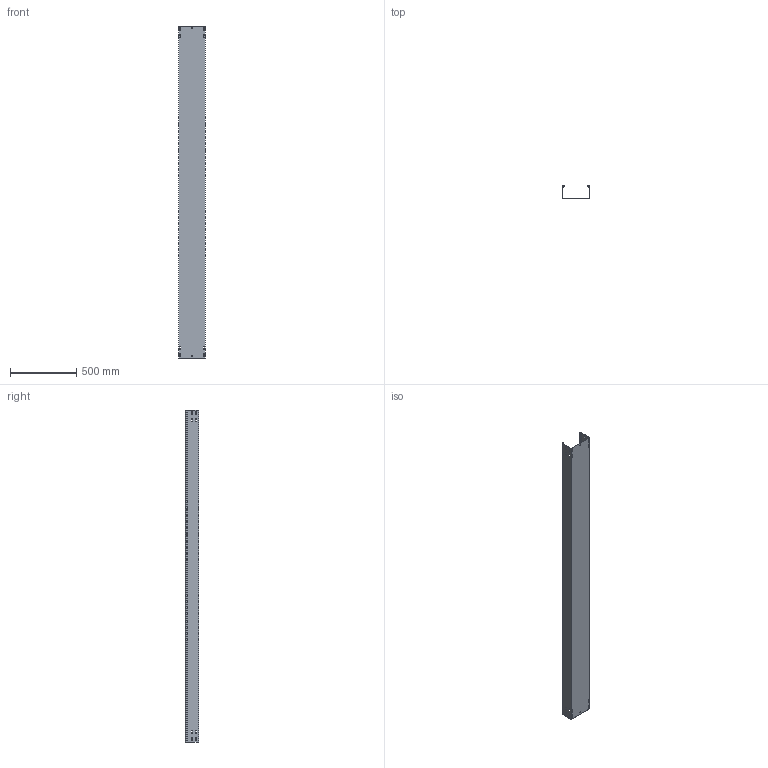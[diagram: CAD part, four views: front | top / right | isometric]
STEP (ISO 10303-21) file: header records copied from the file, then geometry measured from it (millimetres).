
FILE_DESCRIPTION (( 'STEP AP203' ), '1' );
FILE_NAME ('CLN10-100-200-200-D25 Ëîòîê íåïåðôîðèðîâàííûé ESCA 100õ200õ2500-2,0 IEK.STEP', '2021-10-04T11:34:10', ( '' ), ( '' ), 'SwSTEP 2.0', 'SolidWorks 2017', '' );
FILE_SCHEMA (( 'CONFIG_CONTROL_DESIGN' ));
Length unit declared in the file: millimetre
Products named in the file (1): CLN10-100-200-200-D25 Ëîòîê íåïåðôîðèðîâàííûé ESCA 100õ200õ2500-2,0 IEK
Bounding box: 200 x 99.97 x 2500 mm (x, y, z)
Volume: 2209707.3 mm3; surface area: 2046665.1 mm2
Topology: 1 solids, 1 shells, 172 faces, 510 edges, 340 vertices
Faces by surface type: plane 92, cylinder 80
Entity records: 5975 total; most frequent: CARTESIAN_POINT 1023, ORIENTED_EDGE 1020, DIRECTION 1016, EDGE_CURVE 510, LINE 350, VECTOR 350, VERTEX_POINT 340, AXIS2_PLACEMENT_3D 333
